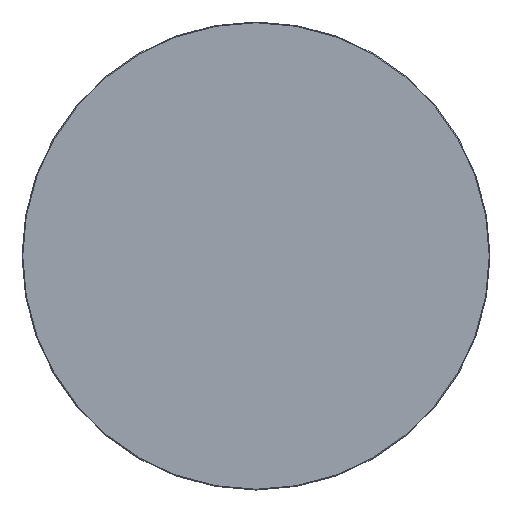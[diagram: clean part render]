
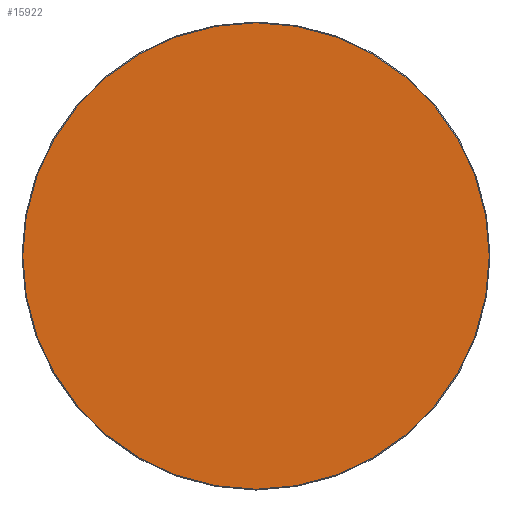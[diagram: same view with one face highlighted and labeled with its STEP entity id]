
A CAD part, top view. The second image highlights one B-rep face of the part: STEP entity #15922.
In plain terms, the highlighted planar face has unit normal (0, 0, 1).
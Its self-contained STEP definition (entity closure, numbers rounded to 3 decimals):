
#15847=CARTESIAN_POINT('',(0.,0.,20.));
#15848=DIRECTION('',(1.,0.,0.));
#15849=DIRECTION('',(0.,0.,1.));
#15850=AXIS2_PLACEMENT_3D('',#15847,#15849,#15848);
#15851=PLANE('',#15850);
#15852=CARTESIAN_POINT('',(-0.5,-448.5,20.));
#15853=VERTEX_POINT('',#15852);
#15854=CARTESIAN_POINT('',(0.5,-448.5,20.));
#15855=VERTEX_POINT('',#15854);
#15856=CARTESIAN_POINT('',(-0.5,-448.5,20.));
#15857=DIRECTION('',(1.,0.,0.));
#15858=VECTOR('',#15857,1.);
#15859=LINE('',#15856,#15858);
#15860=EDGE_CURVE('',#15853,#15855,#15859,.T.);
#15861=ORIENTED_EDGE('E105',*,*,#15860,.T.);
#15862=CARTESIAN_POINT('',(448.5,-0.5,20.));
#15863=VERTEX_POINT('',#15862);
#15864=CARTESIAN_POINT('',(0.5,-0.5,20.));
#15865=DIRECTION('',(0.,-1.,0.));
#15866=DIRECTION('',(0.,0.,1.));
#15867=AXIS2_PLACEMENT_3D('',#15864,#15866,#15865);
#15868=CIRCLE('',#15867,448.);
#15869=EDGE_CURVE('',#15855,#15863,#15868,.T.);
#15870=ORIENTED_EDGE('E107',*,*,#15869,.T.);
#15871=CARTESIAN_POINT('',(448.5,0.5,20.));
#15872=VERTEX_POINT('',#15871);
#15873=CARTESIAN_POINT('',(448.5,-0.5,20.));
#15874=DIRECTION('',(0.,1.,0.));
#15875=VECTOR('',#15874,1.);
#15876=LINE('',#15873,#15875);
#15877=EDGE_CURVE('',#15863,#15872,#15876,.T.);
#15878=ORIENTED_EDGE('E109',*,*,#15877,.T.);
#15879=CARTESIAN_POINT('',(0.5,448.5,20.));
#15880=VERTEX_POINT('',#15879);
#15881=CARTESIAN_POINT('',(0.5,0.5,20.));
#15882=DIRECTION('',(1.,0.,0.));
#15883=DIRECTION('',(0.,0.,1.));
#15884=AXIS2_PLACEMENT_3D('',#15881,#15883,#15882);
#15885=CIRCLE('',#15884,448.);
#15886=EDGE_CURVE('',#15872,#15880,#15885,.T.);
#15887=ORIENTED_EDGE('E111',*,*,#15886,.T.);
#15888=CARTESIAN_POINT('',(-0.5,448.5,20.));
#15889=VERTEX_POINT('',#15888);
#15890=CARTESIAN_POINT('',(0.5,448.5,20.));
#15891=DIRECTION('',(-1.,0.,0.));
#15892=VECTOR('',#15891,1.);
#15893=LINE('',#15890,#15892);
#15894=EDGE_CURVE('',#15880,#15889,#15893,.T.);
#15895=ORIENTED_EDGE('E113',*,*,#15894,.T.);
#15896=CARTESIAN_POINT('',(-448.5,0.5,20.));
#15897=VERTEX_POINT('',#15896);
#15898=CARTESIAN_POINT('',(-0.5,0.5,20.));
#15899=DIRECTION('',(0.,1.,0.));
#15900=DIRECTION('',(0.,0.,1.));
#15901=AXIS2_PLACEMENT_3D('',#15898,#15900,#15899);
#15902=CIRCLE('',#15901,448.);
#15903=EDGE_CURVE('',#15889,#15897,#15902,.T.);
#15904=ORIENTED_EDGE('E115',*,*,#15903,.T.);
#15905=CARTESIAN_POINT('',(-448.5,-0.5,20.));
#15906=VERTEX_POINT('',#15905);
#15907=CARTESIAN_POINT('',(-448.5,0.5,20.));
#15908=DIRECTION('',(0.,-1.,0.));
#15909=VECTOR('',#15908,1.);
#15910=LINE('',#15907,#15909);
#15911=EDGE_CURVE('',#15897,#15906,#15910,.T.);
#15912=ORIENTED_EDGE('E117',*,*,#15911,.T.);
#15913=CARTESIAN_POINT('',(-0.5,-0.5,20.));
#15914=DIRECTION('',(-1.,0.,0.));
#15915=DIRECTION('',(0.,0.,1.));
#15916=AXIS2_PLACEMENT_3D('',#15913,#15915,#15914);
#15917=CIRCLE('',#15916,448.);
#15918=EDGE_CURVE('',#15906,#15853,#15917,.T.);
#15919=ORIENTED_EDGE('E119',*,*,#15918,.T.);
#15920=EDGE_LOOP('',(#15861,#15870,#15878,#15887,#15895,#15904,#15912,#15919));
#15921=FACE_OUTER_BOUND('',#15920,.T.);
#15922=ADVANCED_FACE('F2',(#15921),#15851,.T.);
